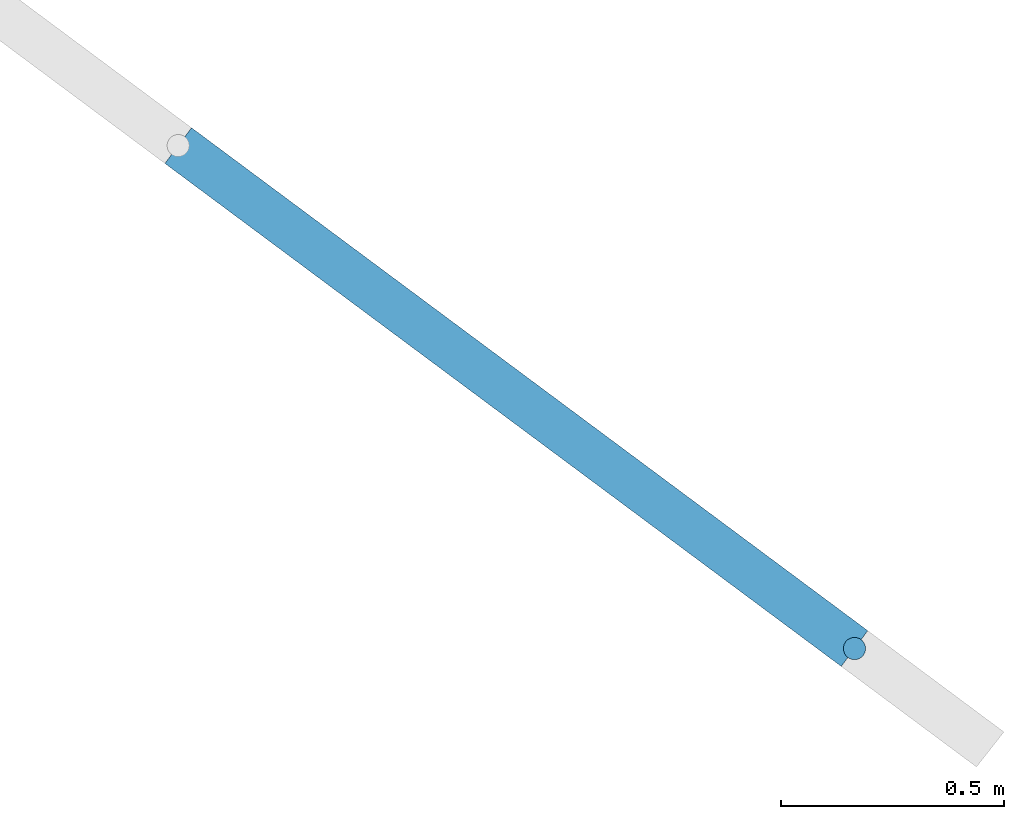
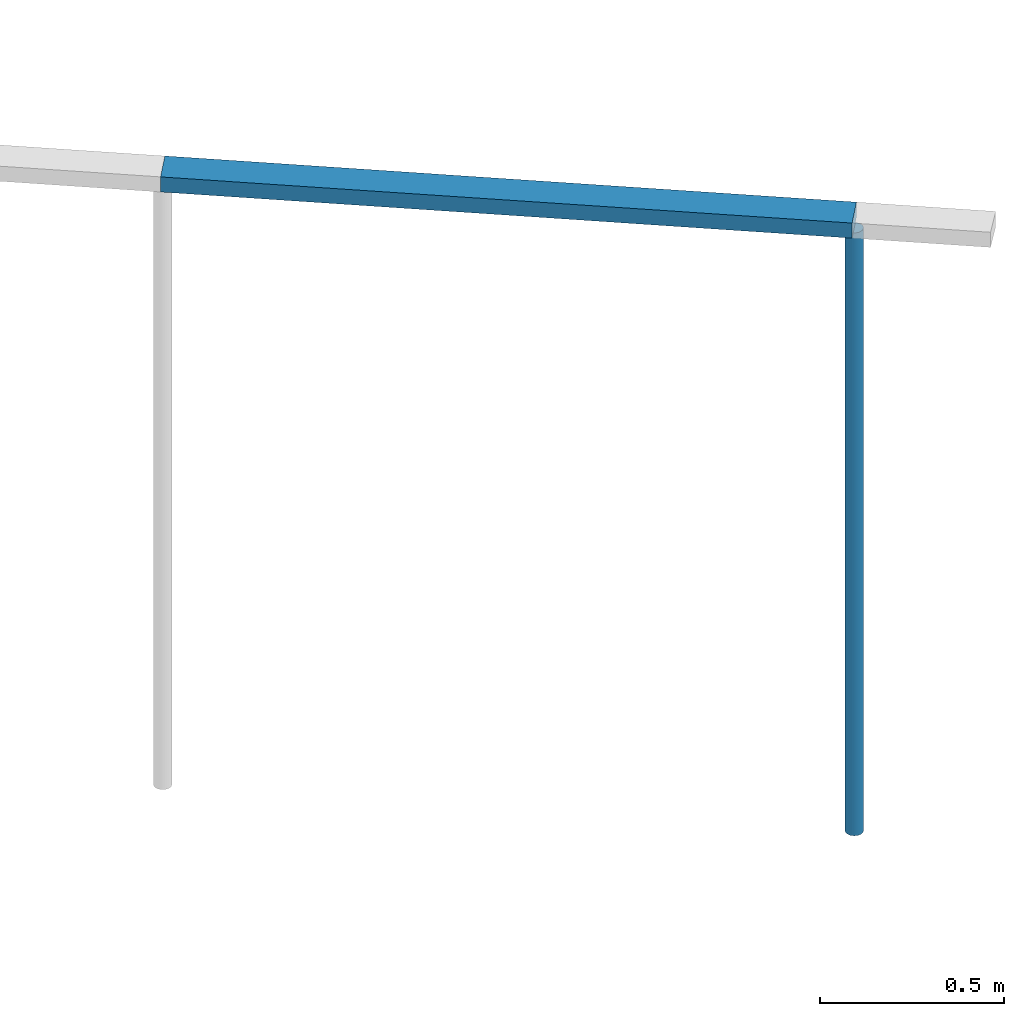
# One storey, part 4 of 12: 2 members, 1 element without a shape of its own.
"""IFC2X3 building model written with IfcOpenShell, lengths in metres."""

from ifc_helpers import new_model, entity, si_unit, converted_unit, derived_unit, direction, frame, frame_2d, origin, origin_2d_with_axis, place, context, subcontext, project, spatial, rectangle, circle, extrude, source, transform, mapped, material, type_object, type_shapes, element, aggregate, save


model = new_model("IFC2X3")

# Units and contexts
model_context = context("Model", 3, precision=1e-05, world=origin(), true_north=direction((6.123031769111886e-17, 1.0)))
body_context = subcontext(model_context, "Body", "Model", "MODEL_VIEW")
ifc_project = project(units=[si_unit("LENGTHUNIT", "METRE"), si_unit("AREAUNIT", "SQUARE_METRE"), si_unit("VOLUMEUNIT", "CUBIC_METRE"), converted_unit("PLANEANGLEUNIT", "DEGREE", entity("IfcRatioMeasure", 0.017453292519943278), si_unit("PLANEANGLEUNIT", "RADIAN"), dimensions=[0, 0, 0, 0, 0, 0, 0]), si_unit("MASSUNIT", "GRAM", prefix="KILO"), derived_unit("MASSDENSITYUNIT", [(si_unit("MASSUNIT", "GRAM", prefix="KILO"), 1), (si_unit("LENGTHUNIT", "METRE"), -3)]), derived_unit("IONCONCENTRATIONUNIT", [(si_unit("MASSUNIT", "GRAM", prefix="KILO"), 1), (si_unit("LENGTHUNIT", "METRE"), -3)]), derived_unit("MOMENTOFINERTIAUNIT", [(si_unit("LENGTHUNIT", "METRE"), 4)]), si_unit("TIMEUNIT", "SECOND"), si_unit("FREQUENCYUNIT", "HERTZ"), si_unit("THERMODYNAMICTEMPERATUREUNIT", "DEGREE_CELSIUS"), derived_unit("THERMALTRANSMITTANCEUNIT", [(si_unit("MASSUNIT", "GRAM", prefix="KILO"), 1), (si_unit("THERMODYNAMICTEMPERATUREUNIT", "KELVIN"), -1), (si_unit("TIMEUNIT", "SECOND"), -3)]), derived_unit("THERMALCONDUCTANCEUNIT", [(si_unit("MASSUNIT", "GRAM", prefix="KILO"), 1), (si_unit("THERMODYNAMICTEMPERATUREUNIT", "KELVIN"), -1), (si_unit("TIMEUNIT", "SECOND"), -3), (si_unit("LENGTHUNIT", "METRE"), 1)]), derived_unit("VOLUMETRICFLOWRATEUNIT", [(si_unit("LENGTHUNIT", "METRE"), 3), (si_unit("TIMEUNIT", "SECOND"), -1)]), derived_unit("MASSFLOWRATEUNIT", [(si_unit("MASSUNIT", "GRAM", prefix="KILO"), 1), (si_unit("TIMEUNIT", "SECOND"), -1)]), derived_unit("ROTATIONALFREQUENCYUNIT", [(si_unit("TIMEUNIT", "SECOND"), -1)]), si_unit("ELECTRICCURRENTUNIT", "AMPERE"), si_unit("ELECTRICVOLTAGEUNIT", "VOLT"), si_unit("POWERUNIT", "WATT"), si_unit("FORCEUNIT", "NEWTON", prefix="KILO"), si_unit("ILLUMINANCEUNIT", "LUX"), si_unit("LUMINOUSFLUXUNIT", "LUMEN"), si_unit("LUMINOUSINTENSITYUNIT", "CANDELA"), derived_unit("USERDEFINED", [(si_unit("MASSUNIT", "GRAM", prefix="KILO"), -1), (si_unit("LENGTHUNIT", "METRE"), -2), (si_unit("TIMEUNIT", "SECOND"), 3), (si_unit("LUMINOUSFLUXUNIT", "LUMEN"), 1)]), derived_unit("USERDEFINED", [(si_unit("MASSUNIT", "GRAM", prefix="KILO"), 1), (si_unit("TIMEUNIT", "SECOND"), -3), (si_unit("LENGTHUNIT", "METRE"), 3), (si_unit("ELECTRICCURRENTUNIT", "AMPERE"), -2)]), derived_unit("SOUNDPOWERUNIT", [(si_unit("MASSUNIT", "GRAM", prefix="KILO"), 1), (si_unit("TIMEUNIT", "SECOND"), -3), (si_unit("LENGTHUNIT", "METRE"), 2)]), derived_unit("SOUNDPRESSUREUNIT", [(si_unit("MASSUNIT", "GRAM", prefix="KILO"), 1), (si_unit("LENGTHUNIT", "METRE"), -1), (si_unit("TIMEUNIT", "SECOND"), -2)]), derived_unit("LINEARVELOCITYUNIT", [(si_unit("LENGTHUNIT", "METRE"), 1), (si_unit("TIMEUNIT", "SECOND"), -1)]), si_unit("PRESSUREUNIT", "PASCAL"), derived_unit("USERDEFINED", [(si_unit("MASSUNIT", "GRAM", prefix="KILO"), 1), (si_unit("LENGTHUNIT", "METRE"), -2), (si_unit("TIMEUNIT", "SECOND"), -2)]), derived_unit("LINEARFORCEUNIT", [(si_unit("MASSUNIT", "GRAM", prefix="KILO"), 1), (si_unit("TIMEUNIT", "SECOND"), -2)]), derived_unit("PLANARFORCEUNIT", [(si_unit("MASSUNIT", "GRAM", prefix="KILO"), 1), (si_unit("LENGTHUNIT", "METRE"), -1), (si_unit("TIMEUNIT", "SECOND"), -2)]), derived_unit("SPECIFICHEATCAPACITYUNIT", [(si_unit("THERMODYNAMICTEMPERATUREUNIT", "KELVIN"), -1), (si_unit("LENGTHUNIT", "METRE"), 2), (si_unit("TIMEUNIT", "SECOND"), -2)]), derived_unit("HEATINGVALUEUNIT", [(si_unit("LENGTHUNIT", "METRE"), 2), (si_unit("TIMEUNIT", "SECOND"), -2)]), derived_unit("VAPORPERMEABILITYUNIT", [(si_unit("LENGTHUNIT", "METRE"), -1), (si_unit("TIMEUNIT", "SECOND"), 1)]), derived_unit("DYNAMICVISCOSITYUNIT", [(si_unit("MASSUNIT", "GRAM", prefix="KILO"), 1), (si_unit("TIMEUNIT", "SECOND"), -1), (si_unit("LENGTHUNIT", "METRE"), -1)]), derived_unit("THERMALEXPANSIONCOEFFICIENTUNIT", [(si_unit("THERMODYNAMICTEMPERATUREUNIT", "KELVIN"), -1)]), derived_unit("MODULUSOFELASTICITYUNIT", [(si_unit("MASSUNIT", "GRAM", prefix="KILO"), 1), (si_unit("LENGTHUNIT", "METRE"), -1), (si_unit("TIMEUNIT", "SECOND"), -2)]), derived_unit("ISOTHERMALMOISTURECAPACITYUNIT", [(si_unit("LENGTHUNIT", "METRE"), 3), (si_unit("MASSUNIT", "GRAM", prefix="KILO"), -1)]), derived_unit("MOISTUREDIFFUSIVITYUNIT", [(si_unit("TIMEUNIT", "SECOND"), -1), (si_unit("LENGTHUNIT", "METRE"), 2)])], contexts=[model_context])

# Site, building, storey
site_placement = place(None, origin())
site = spatial("IfcSite", under=ifc_project, at=site_placement, Name="Superficie", CompositionType="ELEMENT")
building_placement = place(site_placement, frame((0.0, 0.0, 235.0), z_axis=(0.0, 0.0, 1.0), x_axis=(-0.7996477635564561, 0.6004693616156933, 0.0)))
building = spatial("IfcBuilding", under=site, at=building_placement, CompositionType="ELEMENT")
storey_placement = place(building_placement, frame((0.0, 0.0, -4.459999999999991)))
storey = spatial("IfcBuildingStorey", under=building, at=storey_placement, Name="PS1- Vestuari", CompositionType="ELEMENT", Elevation=-4.459999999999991)

# Curtain wall, members
curtain_wall_type = type_object("IfcCurtainWallType", Name="Muro cortina:SER EXT- Tanca exterior", PredefinedType="NOTDEFINED")
curtain_wall_placement = place(storey_placement, frame((0.0, 0.0, 4.459999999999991)))
curtain_wall = element("IfcCurtainWall", 1, at=curtain_wall_placement, inside=storey, type_object=curtain_wall_type, Name="Muro cortina:SER EXT- Tanca exterior", ObjectType="Muro cortina:SER EXT- Tanca exterior")
ifc_material_1 = material(Name="Acero inoxidable")
member_type_1 = type_object("IfcMemberType", Name="Montante circular:Perfil Tanca exterior", PredefinedType="MULLION", material=ifc_material_1)
shared_shape_1 = source(origin(), body_context, "Body", "SweptSolid", [
    extrude(circle(Radius=0.025, at=frame_2d((-2.1149748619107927e-18, -4.0388614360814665e-17), x_axis=(1.0, 0.0))), frame((0.0, 0.0, -2.0), z_axis=(0.0, 0.0, 1.0), x_axis=(-1.0, 0.0, 0.0)), (0.0, 0.0, 1.0), 1.9999999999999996),
])
type_shapes(member_type_1, [shared_shape_1])
member_1_placement = place(curtain_wall_placement, frame((8.018401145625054, -66.71605410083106, -5.509999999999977), z_axis=(0.0, 0.0, -1.0), x_axis=(-0.9999891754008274, -0.004652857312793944, 0.0)))
member_1 = element("IfcMember", 2, at=member_1_placement, type_object=member_type_1, material=ifc_material_1, Name="Montante circular:Perfil Tanca exterior", ObjectType="Montante circular:Perfil Tanca exterior", context=body_context, shape_type="MappedRepresentation", body=[
    mapped(shared_shape_1, transform((0.0, 0.0, 0.0), scale=1.0)),
])
ifc_material_2 = material(Name="_Formigó- Solera- T1- STR")
member_type_2 = type_object("IfcMemberType", Name="Montante rectangular:Montante rectangular 100x50", PredefinedType="MULLION", material=ifc_material_2)
shared_shape_2 = source(origin(), body_context, "Body", "SweptSolid", [
    extrude(rectangle(XDim=0.1, YDim=0.05000000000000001, at=origin_2d_with_axis()), frame((-0.025000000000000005, 0.0, -1.8921350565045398), z_axis=(0.0, 0.0, 1.0), x_axis=(0.0, -1.0, 0.0)), (0.0, 0.0, 1.0), 1.8921350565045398),
])
type_shapes(member_type_2, [shared_shape_2])
member_2_placement = place(curtain_wall_placement, frame((8.018401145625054, -66.71605410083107, -3.459999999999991), z_axis=(-0.9999891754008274, -0.004652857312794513, 0.0), x_axis=(0.0, 0.0, 1.0)))
member_2 = element("IfcMember", 3, at=member_2_placement, type_object=member_type_2, material=ifc_material_2, Name="Montante rectangular:Montante rectangular 100x50", ObjectType="Montante rectangular:Montante rectangular 100x50", context=body_context, shape_type="MappedRepresentation", body=[
    mapped(shared_shape_2, transform((0.0, 0.0, 0.0), scale=1.0)),
])
aggregate(curtain_wall, [member_1, member_2])

save(model, "model.ifc")
